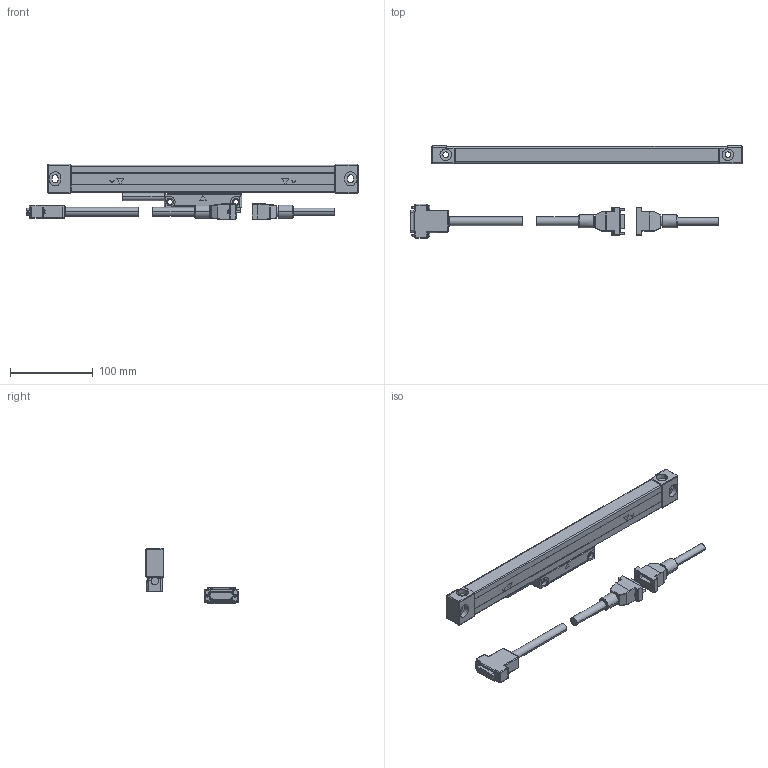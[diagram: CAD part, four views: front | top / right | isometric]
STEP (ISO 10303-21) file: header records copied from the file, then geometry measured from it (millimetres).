
FILE_DESCRIPTION(('Creo Elements/Direct Modeling STEP Export'),'2;1');
FILE_NAME('AT211-200B.stp','2018-03-15T10:47:03',(''),(''),'Creo Elements/Direct Modeling STEP processor for AP214 (Solid Model)','Creo Elements/Direct Modeling 18.1B 29-Sep-2012 (C) Parametric Technology GmbH','');
FILE_SCHEMA(('AUTOMOTIVE_DESIGN { 1 0 10303 214 1 1 1 1 }'));
Length unit declared in the file: millimetre
Products named in the file (7): Scale_200; Detector_Head; Head_Cable; SignalCable; D-sub15; Cable; AT211-200B
Assembly tree (6 placements, depth 3):
  AT211-200B
    Cable
      D-sub15
      SignalCable
      Head_Cable
    Detector_Head
    Scale_200
Bounding box: 402.33 x 112.19 x 66.93 mm (x, y, z)
Volume: 333959.9 mm3; surface area: 84416.1 mm2
Topology: 5 solids, 9 shells, 1025 faces, 2503 edges, 1501 vertices
Faces by surface type: plane 529, cylinder 322, sphere 64, cone 36, torus 34, extrusion 32, revolution 8
Entity records: 31323 total; most frequent: CARTESIAN_POINT 8026, ORIENTED_EDGE 4878, DIRECTION 4617, EDGE_CURVE 2439, AXIS2_PLACEMENT_3D 1566, VERTEX_POINT 1501, VECTOR 1473, LINE 1461
